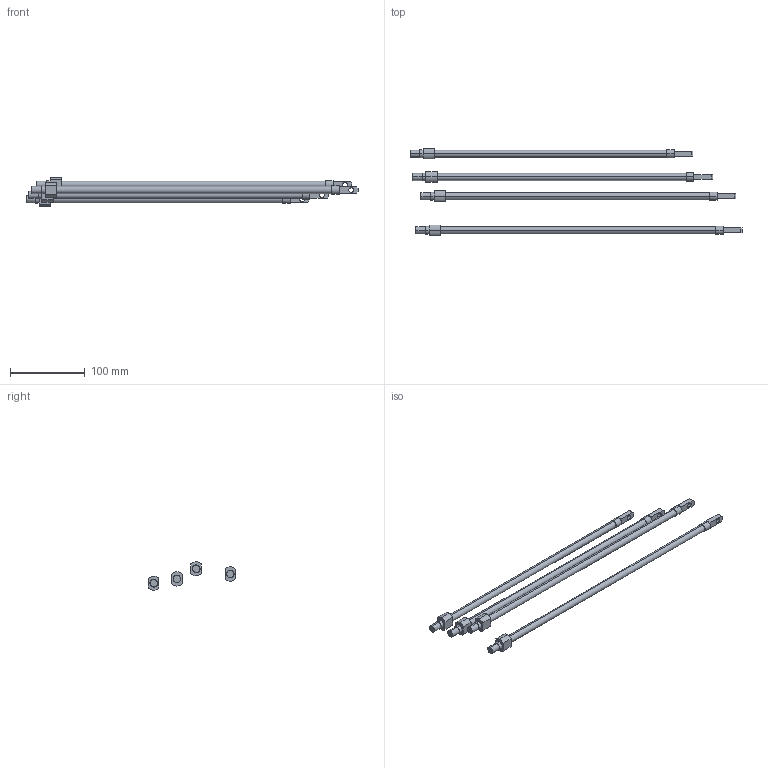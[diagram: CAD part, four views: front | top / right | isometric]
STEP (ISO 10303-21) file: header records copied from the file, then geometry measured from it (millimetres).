
FILE_DESCRIPTION (( 'STEP AP214' ), '1' );
FILE_NAME ('04030.STEP', '2018-01-22T09:31:52', ( '' ), ( '' ), 'SwSTEP 2.0', 'SolidWorks 2015', '' );
FILE_SCHEMA (( 'AUTOMOTIVE_DESIGN' ));
Length unit declared in the file: millimetre
Products named in the file (5): 04030-4; 04030-3; 04030-1; 04030-2; 04030
Assembly tree (4 placements, depth 2):
  04030
    04030-1
    04030-2
    04030-3
    04030-4
Bounding box: 442.86 x 116.13 x 38.37 mm (x, y, z)
Volume: 124909.2 mm3; surface area: 53024.1 mm2
Topology: 4 solids, 4 shells, 124 faces, 268 edges, 168 vertices
Faces by surface type: plane 72, cylinder 52
Entity records: 3942 total; most frequent: DIRECTION 650, CARTESIAN_POINT 567, ORIENTED_EDGE 536, EDGE_CURVE 268, AXIS2_PLACEMENT_3D 251, VERTEX_POINT 168, LINE 148, EDGE_LOOP 148
